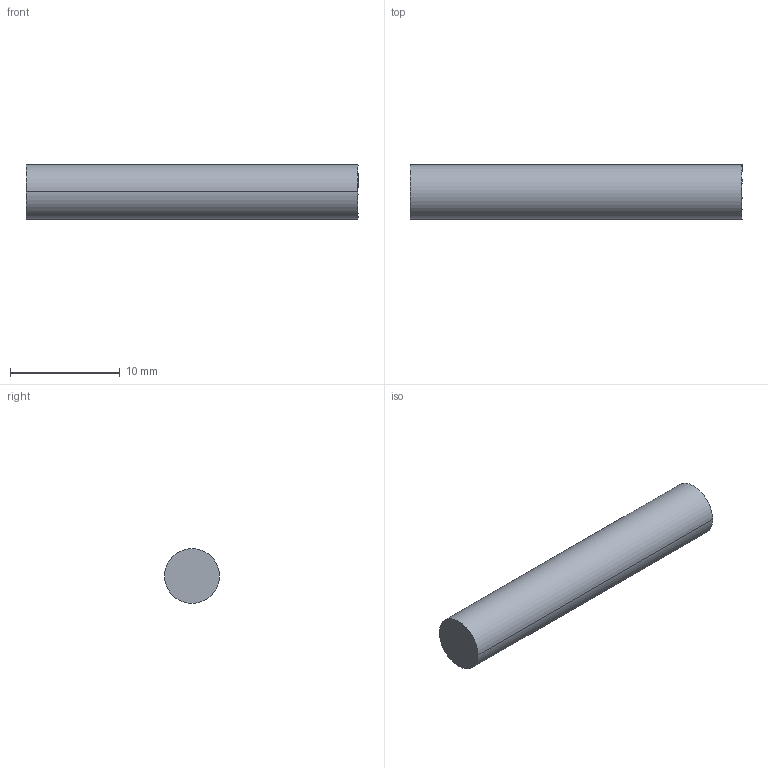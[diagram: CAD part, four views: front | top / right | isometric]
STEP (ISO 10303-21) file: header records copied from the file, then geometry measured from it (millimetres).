
FILE_DESCRIPTION(/* description */ (''),/* implementation_level */ '2;1');
FILE_NAME(/* name */ 'EJE5MM~2',/* time_stamp */ '2019-04-02T17:35:23-03:00',/* author */ (''),/* organization */ (''),/* preprocessor_version */ 'ST-DEVELOPER v16.5',/* originating_system */ '',/* authorisation */ '');
FILE_SCHEMA (('AUTOMOTIVE_DESIGN'));
Length unit declared in the file: millimetre
Products named in the file (1): Document
Bounding box: 30.3 x 5 x 4.99 mm (x, y, z)
Volume: 596.8 mm3; surface area: 516 mm2
Topology: 1 solids, 1 shells, 4 faces, 6 edges, 4 vertices
Faces by surface type: bspline 2, plane 2
Entity records: 117 total; most frequent: CARTESIAN_POINT 52, ORIENTED_EDGE 12, EDGE_CURVE 6, DIRECTION 6, ADVANCED_FACE 4, FACE_OUTER_BOUND 4, EDGE_LOOP 4, VERTEX_POINT 4
